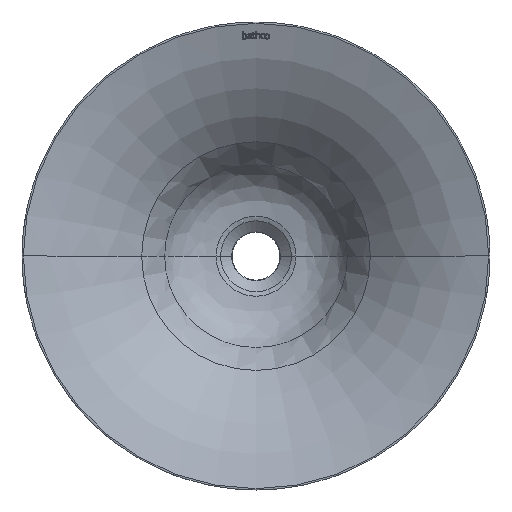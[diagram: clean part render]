
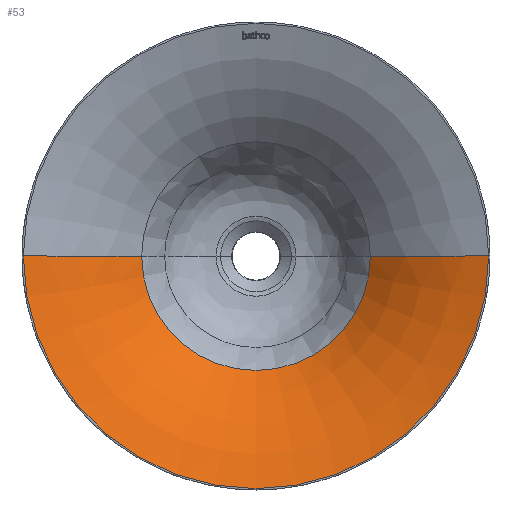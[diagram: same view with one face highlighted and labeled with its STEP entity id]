
A CAD part, top view. The second image highlights one B-rep face of the part: STEP entity #53.
In plain terms, the highlighted free-form (B-spline) face has degree [3, 2] with [9, 5] control points.
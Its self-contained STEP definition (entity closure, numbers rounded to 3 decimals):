
#53=ADVANCED_FACE('',(#168),#1712,.T.);
#168=FACE_OUTER_BOUND('',#283,.T.);
#283=EDGE_LOOP('',(#413,#414,#415,#416));
#413=ORIENTED_EDGE('',*,*,#919,.F.);
#414=ORIENTED_EDGE('',*,*,#920,.T.);
#415=ORIENTED_EDGE('',*,*,#954,.T.);
#416=ORIENTED_EDGE('',*,*,#970,.F.);
#919=EDGE_CURVE('',#1520,#1548,#1331,.T.);
#920=EDGE_CURVE('',#1520,#1537,#1200,.T.);
#954=EDGE_CURVE('',#1537,#1549,#1355,.T.);
#970=EDGE_CURVE('',#1548,#1549,#1204,.T.);
#1200=B_SPLINE_CURVE_WITH_KNOTS('',3,(#3277,#3278,#3279,#3280,#3281,#3282,
#3283,#3284,#3285),.UNSPECIFIED.,.F.,.F.,(4,1,1,1,1,1,4),(0.,16.407,
32.803,49.175,65.514,98.052,133.069),
 .UNSPECIFIED.);
#1204=B_SPLINE_CURVE_WITH_KNOTS('',3,(#3459,#3460,#3461,#3462,#3463,#3464,
#3465,#3466,#3467),.UNSPECIFIED.,.F.,.F.,(4,1,1,1,1,1,4),(0.,16.407,
32.803,49.175,65.514,98.052,133.069),
 .UNSPECIFIED.);
#1331=TRIMMED_CURVE($,#1427,(#3275),(#3276),.T.,.CARTESIAN.);
#1355=TRIMMED_CURVE($,#1451,(#3412),(#3413),.T.,.CARTESIAN.);
#1427=CIRCLE('',#1870,109.917);
#1451=CIRCLE('',#1894,223.749);
#1520=VERTEX_POINT('',#3203);
#1537=VERTEX_POINT('',#3220);
#1548=VERTEX_POINT('',#3231);
#1549=VERTEX_POINT('',#3232);
#1712=(
BOUNDED_SURFACE()
B_SPLINE_SURFACE(3,2,((#2271,#2272,#2273,#2274,#2275),(#2276,#2277,#2278,
#2279,#2280),(#2281,#2282,#2283,#2284,#2285),(#2286,#2287,#2288,#2289,#2290),
(#2291,#2292,#2293,#2294,#2295),(#2296,#2297,#2298,#2299,#2300),(#2301,
#2302,#2303,#2304,#2305),(#2306,#2307,#2308,#2309,#2310),(#2311,#2312,#2313,
#2314,#2315)),.UNSPECIFIED.,.F.,.F.,.F.)
B_SPLINE_SURFACE_WITH_KNOTS((4,1,1,1,1,1,4),(3,2,3),(0.,16.407,
32.803,49.175,65.514,98.052,134.311),
(0.,353.429,706.858),.UNSPECIFIED.)
GEOMETRIC_REPRESENTATION_ITEM()
RATIONAL_B_SPLINE_SURFACE(((1.,0.707,1.,0.707,1.),
(1.,0.707,1.,0.707,1.),(1.,0.707,1.,
0.707,1.),(1.,0.707,1.,0.707,1.),(1.,
0.707,1.,0.707,1.),(1.,0.707,1.,0.707,
1.),(1.,0.707,1.,0.707,1.),(1.,0.707,
1.,0.707,1.),(1.,0.707,1.,0.707,1.)))
REPRESENTATION_ITEM('')
SURFACE()
);
#1870=AXIS2_PLACEMENT_3D($,#3274,#2016,#2017);
#1894=AXIS2_PLACEMENT_3D($,#3411,#2064,#2065);
#2016=DIRECTION('',(0.,0.,1.));
#2017=DIRECTION('',(-1.,0.,0.));
#2064=DIRECTION('',(0.,0.,1.));
#2065=DIRECTION('',(-1.,0.,0.));
#2271=CARTESIAN_POINT('',(909.532,0.,-74.244));
#2272=CARTESIAN_POINT('',(909.532,-109.917,-74.244));
#2273=CARTESIAN_POINT('',(1019.448,-109.917,-74.244));
#2274=CARTESIAN_POINT('',(1129.365,-109.917,-74.244));
#2275=CARTESIAN_POINT('',(1129.365,0.,-74.244));
#2276=CARTESIAN_POINT('',(905.695,0.,-70.346));
#2277=CARTESIAN_POINT('',(905.695,-113.753,-70.346));
#2278=CARTESIAN_POINT('',(1019.448,-113.753,-70.346));
#2279=CARTESIAN_POINT('',(1133.201,-113.753,-70.346));
#2280=CARTESIAN_POINT('',(1133.201,0.,-70.346));
#2281=CARTESIAN_POINT('',(897.783,0.,-62.791));
#2282=CARTESIAN_POINT('',(897.783,-121.665,-62.791));
#2283=CARTESIAN_POINT('',(1019.448,-121.665,-62.791));
#2284=CARTESIAN_POINT('',(1141.113,-121.665,-62.791));
#2285=CARTESIAN_POINT('',(1141.113,0.,-62.791));
#2286=CARTESIAN_POINT('',(885.232,0.,-52.235));
#2287=CARTESIAN_POINT('',(885.232,-134.216,-52.235));
#2288=CARTESIAN_POINT('',(1019.448,-134.216,-52.235));
#2289=CARTESIAN_POINT('',(1153.665,-134.216,-52.235));
#2290=CARTESIAN_POINT('',(1153.665,0.,-52.235));
#2291=CARTESIAN_POINT('',(872.045,0.,-42.522));
#2292=CARTESIAN_POINT('',(872.045,-147.403,-42.522));
#2293=CARTESIAN_POINT('',(1019.448,-147.403,-42.522));
#2294=CARTESIAN_POINT('',(1166.851,-147.403,-42.522));
#2295=CARTESIAN_POINT('',(1166.851,0.,-42.522));
#2296=CARTESIAN_POINT('',(853.725,0.,-30.779));
#2297=CARTESIAN_POINT('',(853.725,-165.723,-30.779));
#2298=CARTESIAN_POINT('',(1019.448,-165.723,-30.779));
#2299=CARTESIAN_POINT('',(1185.171,-165.723,-30.779));
#2300=CARTESIAN_POINT('',(1185.171,0.,-30.779));
#2301=CARTESIAN_POINT('',(828.391,0.,-17.855));
#2302=CARTESIAN_POINT('',(828.391,-191.058,-17.855));
#2303=CARTESIAN_POINT('',(1019.448,-191.058,-17.855));
#2304=CARTESIAN_POINT('',(1210.506,-191.058,-17.855));
#2305=CARTESIAN_POINT('',(1210.506,0.,-17.855));
#2306=CARTESIAN_POINT('',(806.651,0.,-10.364));
#2307=CARTESIAN_POINT('',(806.651,-212.798,-10.364));
#2308=CARTESIAN_POINT('',(1019.448,-212.798,-10.364));
#2309=CARTESIAN_POINT('',(1232.246,-212.798,-10.364));
#2310=CARTESIAN_POINT('',(1232.246,0.,-10.364));
#2311=CARTESIAN_POINT('',(794.448,0.,-7.277));
#2312=CARTESIAN_POINT('',(794.448,-225.,-7.277));
#2313=CARTESIAN_POINT('',(1019.448,-225.,-7.277));
#2314=CARTESIAN_POINT('',(1244.448,-225.,-7.277));
#2315=CARTESIAN_POINT('',(1244.448,0.,-7.277));
#3203=CARTESIAN_POINT('',(909.532,0.,-74.244));
#3220=CARTESIAN_POINT('',(795.699,0.,-7.597));
#3231=CARTESIAN_POINT('',(1129.365,0.,-74.244));
#3232=CARTESIAN_POINT('',(1243.198,0.,-7.597));
#3274=CARTESIAN_POINT('',(1019.448,0.,-74.244));
#3275=CARTESIAN_POINT('',(909.532,0.,-74.244));
#3276=CARTESIAN_POINT('',(1129.365,0.,-74.244));
#3277=CARTESIAN_POINT('',(909.532,0.,-74.244));
#3278=CARTESIAN_POINT('',(905.695,0.,-70.346));
#3279=CARTESIAN_POINT('',(897.783,0.,-62.791));
#3280=CARTESIAN_POINT('',(885.232,0.,-52.235));
#3281=CARTESIAN_POINT('',(872.045,0.,-42.522));
#3282=CARTESIAN_POINT('',(853.725,0.,-30.779));
#3283=CARTESIAN_POINT('',(828.76,0.,-18.044));
#3284=CARTESIAN_POINT('',(807.435,0.,-10.635));
#3285=CARTESIAN_POINT('',(795.699,0.,-7.597));
#3411=CARTESIAN_POINT('',(1019.448,0.,-7.597));
#3412=CARTESIAN_POINT('',(795.699,0.,-7.597));
#3413=CARTESIAN_POINT('',(1243.198,0.,-7.597));
#3459=CARTESIAN_POINT('',(1129.365,0.,-74.244));
#3460=CARTESIAN_POINT('',(1133.201,0.,-70.346));
#3461=CARTESIAN_POINT('',(1141.113,0.,-62.791));
#3462=CARTESIAN_POINT('',(1153.665,0.,-52.235));
#3463=CARTESIAN_POINT('',(1166.851,0.,-42.522));
#3464=CARTESIAN_POINT('',(1185.171,0.,-30.779));
#3465=CARTESIAN_POINT('',(1210.136,0.,-18.044));
#3466=CARTESIAN_POINT('',(1231.462,0.,-10.635));
#3467=CARTESIAN_POINT('',(1243.198,0.,-7.597));
